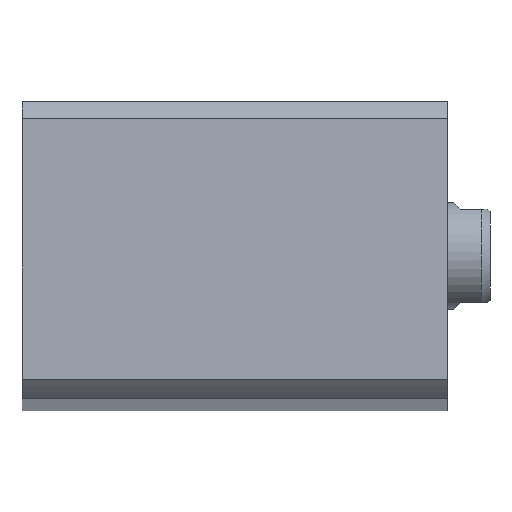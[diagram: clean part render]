
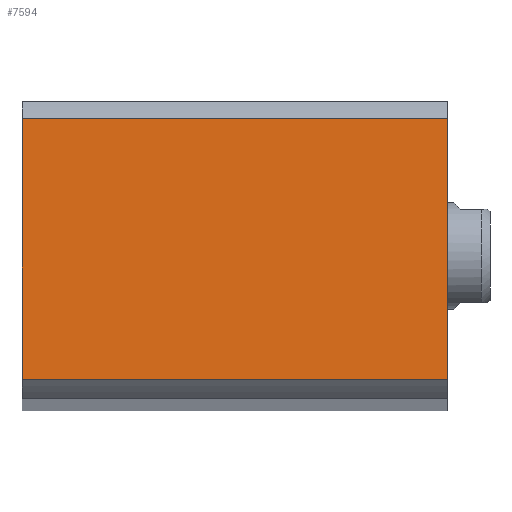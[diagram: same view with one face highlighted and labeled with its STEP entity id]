
A CAD part, left-side view. The second image highlights one B-rep face of the part: STEP entity #7594.
In plain terms, the highlighted planar face has unit normal (-0.999, 0, 0.047) as drawn and (-1, 0, 0) by its records, which use the part's own axes.
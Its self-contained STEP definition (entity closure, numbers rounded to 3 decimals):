
#350 = CARTESIAN_POINT ( 'NONE',  ( -35., 30.615, 100. ) ) ;
#402 = VECTOR ( 'NONE', #6798, 1000. ) ;
#467 = VERTEX_POINT ( 'NONE', #6987 ) ;
#608 = VECTOR ( 'NONE', #8590, 1000. ) ;
#787 = VERTEX_POINT ( 'NONE', #6862 ) ;
#1037 = CARTESIAN_POINT ( 'NONE',  ( -35., 35., 0. ) ) ;
#1346 = EDGE_CURVE ( 'NONE', #787, #467, #4777, .T. ) ;
#1496 = VECTOR ( 'NONE', #4756, 1000. ) ;
#1812 = DIRECTION ( 'NONE',  ( 0., -1., 0. ) ) ;
#1930 = EDGE_LOOP ( 'NONE', ( #5966, #9674, #7076, #6583 ) ) ;
#2842 = PLANE ( 'NONE',  #5190 ) ;
#3225 = EDGE_CURVE ( 'NONE', #5300, #467, #6284, .T. ) ;
#3323 = CARTESIAN_POINT ( 'NONE',  ( -35., 30.615, 0. ) ) ;
#3628 = DIRECTION ( 'NONE',  ( 0., 1., 0. ) ) ;
#3967 = CARTESIAN_POINT ( 'NONE',  ( -35., 35., 100. ) ) ;
#4756 = DIRECTION ( 'NONE',  ( 0., -1., 0. ) ) ;
#4777 = LINE ( 'NONE', #9042, #608 ) ;
#5185 = CARTESIAN_POINT ( 'NONE',  ( -35., 35., 100. ) ) ;
#5190 = AXIS2_PLACEMENT_3D ( 'NONE', #5185, #8377, #3628 ) ;
#5300 = VERTEX_POINT ( 'NONE', #3323 ) ;
#5664 = LINE ( 'NONE', #3967, #1496 ) ;
#5920 = FACE_OUTER_BOUND ( 'NONE', #1930, .T. ) ;
#5966 = ORIENTED_EDGE ( 'NONE', *, *, #1346, .F. ) ;
#6007 = CARTESIAN_POINT ( 'NONE',  ( -35., 30.615, 300. ) ) ;
#6033 = VECTOR ( 'NONE', #1812, 1000. ) ;
#6284 = LINE ( 'NONE', #1037, #6033 ) ;
#6583 = ORIENTED_EDGE ( 'NONE', *, *, #3225, .T. ) ;
#6666 = LINE ( 'NONE', #6007, #402 ) ;
#6798 = DIRECTION ( 'NONE',  ( 0., 0., 1. ) ) ;
#6862 = CARTESIAN_POINT ( 'NONE',  ( -35., -30.615, 100. ) ) ;
#6987 = CARTESIAN_POINT ( 'NONE',  ( -35., -30.615, 0. ) ) ;
#7076 = ORIENTED_EDGE ( 'NONE', *, *, #9169, .F. ) ;
#7594 = ADVANCED_FACE ( 'NONE', ( #5920 ), #2842, .F. ) ;
#8337 = VERTEX_POINT ( 'NONE', #350 ) ;
#8377 = DIRECTION ( 'NONE',  ( 1., 0., 0. ) ) ;
#8590 = DIRECTION ( 'NONE',  ( 0., 0., -1. ) ) ;
#9042 = CARTESIAN_POINT ( 'NONE',  ( -35., -30.615, 300. ) ) ;
#9169 = EDGE_CURVE ( 'NONE', #5300, #8337, #6666, .T. ) ;
#9521 = EDGE_CURVE ( 'NONE', #8337, #787, #5664, .T. ) ;
#9674 = ORIENTED_EDGE ( 'NONE', *, *, #9521, .F. ) ;
